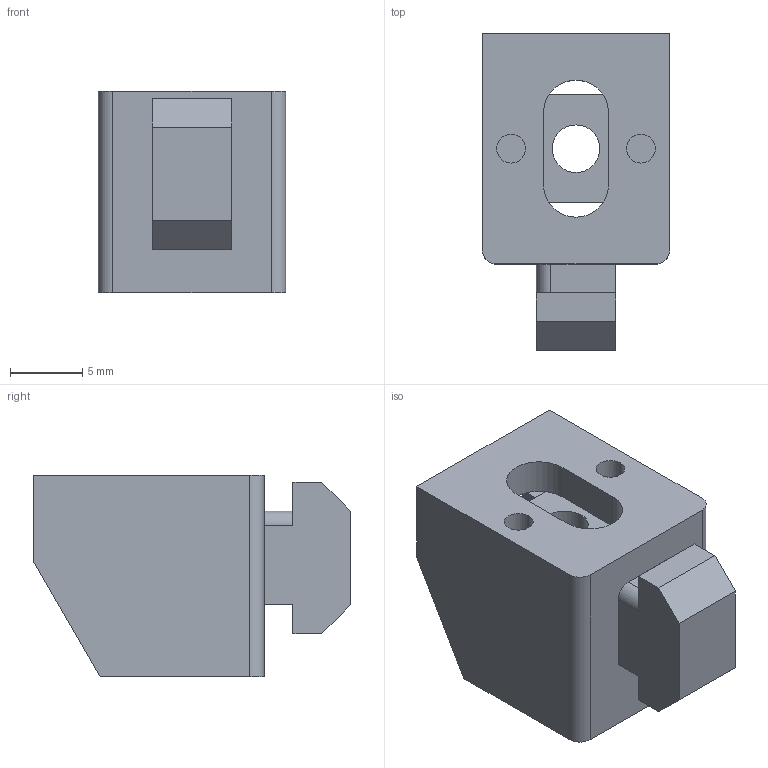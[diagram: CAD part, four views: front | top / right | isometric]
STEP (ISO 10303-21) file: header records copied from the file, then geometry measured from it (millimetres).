
FILE_DESCRIPTION (( 'STEP AP203' ), '1' );
FILE_NAME ('CP-MB5-20X20.STEP', '2018-09-03T09:02:15', ( '' ), ( '' ), 'SwSTEP 2.0', 'SolidWorks 2013', '' );
FILE_SCHEMA (( 'CONFIG_CONTROL_DESIGN' ));
Length unit declared in the file: millimetre
Products named in the file (1): CP-MB5-20X20
Bounding box: 13 x 22 x 14 mm (x, y, z)
Volume: 1934.7 mm3; surface area: 1851.2 mm2
Topology: 2 solids, 2 shells, 63 faces, 168 edges, 112 vertices
Faces by surface type: plane 47, cylinder 16
Entity records: 2039 total; most frequent: CARTESIAN_POINT 344, ORIENTED_EDGE 336, DIRECTION 328, EDGE_CURVE 168, VECTOR 136, LINE 136, VERTEX_POINT 112, AXIS2_PLACEMENT_3D 96
